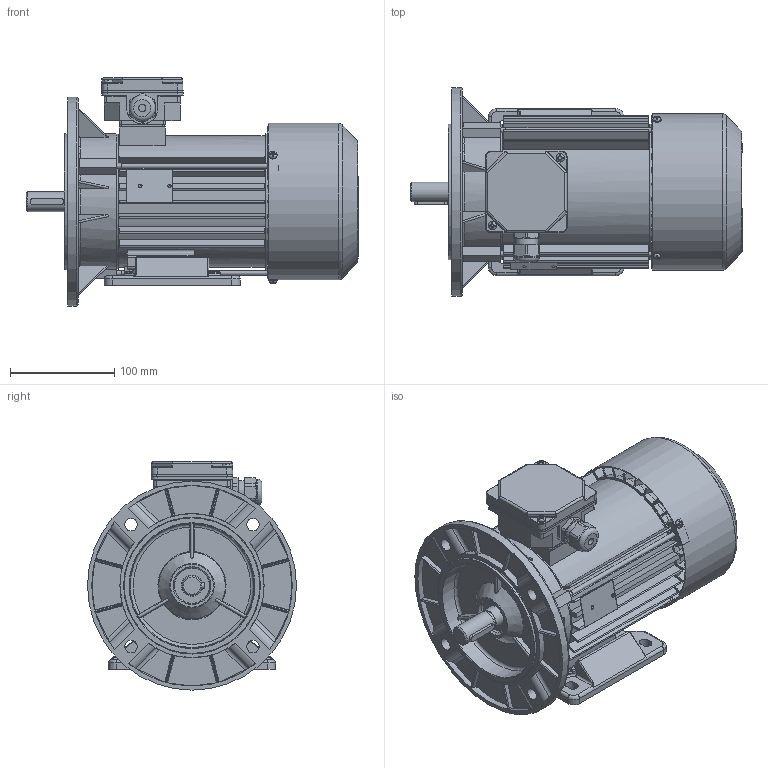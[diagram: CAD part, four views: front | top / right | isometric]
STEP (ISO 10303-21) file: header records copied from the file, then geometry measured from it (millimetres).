
FILE_DESCRIPTION( ( 'Unknown' ), '1' );
FILE_NAME( 'G:/Poczta Tk-1/STP/w.m.80/Sh80/SLh80x-.D.stp', 'Unknown', ( 'K. Szlosek' ), ( 'BESEL S.A.' ), 'PSStep 17.0.49', 'Unknown', ' ' );
FILE_SCHEMA( ( 'AUTOMOTIVE_DESIGN { 1 0 10303 214 1 1 1 1 }' ) );
Length unit declared in the file: millimetre
Products named in the file (30): skrznka zaciskowa trójfazowa ; K4-2820 Uszczelka nr 2 Sh71,80; Dławnica M20x1,5; K2-0859 Podstawa skrzynki 6-cio zaciskowej; K2-0860 Pokrywka skrzynki zaciskowej; Assem1; K1-1257 Kadłub S(E,M)h80-C i D; Wkręt samogwintujący M4x16; Wkręt samogwintujący M4x10; K4-2320 Uszczelka nr 1 Sh71,80; Wpust A6x6x32; K2-1715 Przewietrznik; Nitokołek A 2x6; Łożysko 6204; Śruba ściągająca E_M5x168; Tabliczka znamionowa 32x44; K3-6857 Tarcza łożyskowa P S(E,M)h80-B,D; K3-2964 Osłona przewietrznika Sh80,90; K3-5645 wał S(E,M)h80-.D; K1-1258  zmiana Tarcza kołnierzowa B5 SKh80-..; K1-0437 Łapa Sh80-.. 
Assembly tree (45 placements, depth 3):
  Assem1
    K1-1257 Kadłub S(E,M)h80-C i D
    Wkręt samogwintujący M4x16  x2
    Wkręt samogwintujący M4x10  x3
    K4-2320 Uszczelka nr 1 Sh71,80
    Wpust A6x6x32
    K2-1715 Przewietrznik
    Nitokołek A 2x6  x2
    Łożysko 6204  x2
    Łożysko 6204  x2
    Łożysko 6204  x2
    Łożysko 6204  x2
    Łożysko 6204  x2
    Łożysko 6204  x2
    Łożysko 6204  x2
    Łożysko 6204  x2
    Łożysko 6204  x2
    Łożysko 6204  x2
    Śruba ściągająca E_M5x168  x3
    Tabliczka znamionowa 32x44
    K3-6857 Tarcza łożyskowa P S(E,M)h80-B,D
    K3-2964 Osłona przewietrznika Sh80,90
    K3-5645 wał S(E,M)h80-.D
    K1-1258  zmiana Tarcza kołnierzowa B5 SKh80-..
    K1-0437 Łapa Sh80-.. 
    skrznka zaciskowa trójfazowa 
      K4-2820 Uszczelka nr 2 Sh71,80
      Dławnica M20x1,5
      K2-0859 Podstawa skrzynki 6-cio zaciskowej
      K2-0860 Pokrywka skrzynki zaciskowej
Bounding box: 317.8 x 200 x 218.5 mm (x, y, z)
Volume: 1205336.9 mm3; surface area: 673789.2 mm2
Topology: 44 solids, 60 shells, 2727 faces, 7474 edges, 4848 vertices
Faces by surface type: plane 1333, cylinder 913, torus 188, cone 144, bspline 113, sphere 36
Full cylindrical faces by diameter (mm): 2 x2, 2.4 x2, 3.7 x11, 4 x6, 4.134 x3, 4.5 x1, 4.6 x3, 4.8 x4, 5 x7, 5.5 x3, 6.5 x4, 7 x1, 8 x9, 12 x4, 18.376 x1, 18.38 x1, 18.6 x1, 19 x1, 19.3 x1, 19.5 x2, 19.6 x2, 19.9 x1, 20 x5, 20.4 x2, 22.3 x1, 25 x1, 25.5 x1, 25.6 x1, 26 x4, 28.802 x4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
Entity records: 134140 total; most frequent: CARTESIAN_POINT 50074, ORIENTED_EDGE 13476, DIRECTION 13145, EDGE_CURVE 6738, AXIS2_PLACEMENT_3D 4820, VERTEX_POINT 4514, LINE 3505, VECTOR 3505
